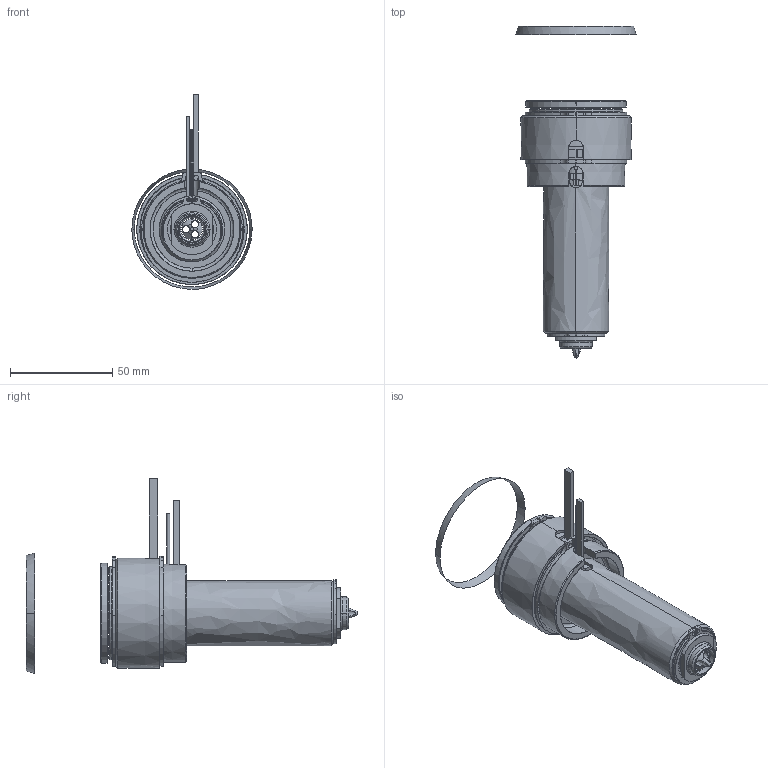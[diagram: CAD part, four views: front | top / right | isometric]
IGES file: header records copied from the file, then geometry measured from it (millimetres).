
Start section: SolidWorks IGES file using analytic representation for surfaces
Global section: file name: C:\Documents and Settings\ws-20\Desktop\TEM\UGEP5502-S-A-0 [Øf-1.55 ØC-12].IGS; native system: SolidWorks 2012; preprocessor: SolidWorks 2012; author: ws-20; date: 120427.080027; units: millimetre
Bounding box: 58.79 x 162.24 x 95.19 mm (x, y, z)
Surface area: 59024.2 mm2 (no closed solid volume)
Topology: 0 solids, 0 shells, 177 faces, 3590 edges, 3590 vertices
Faces by surface type: revolution 115, bspline 62
